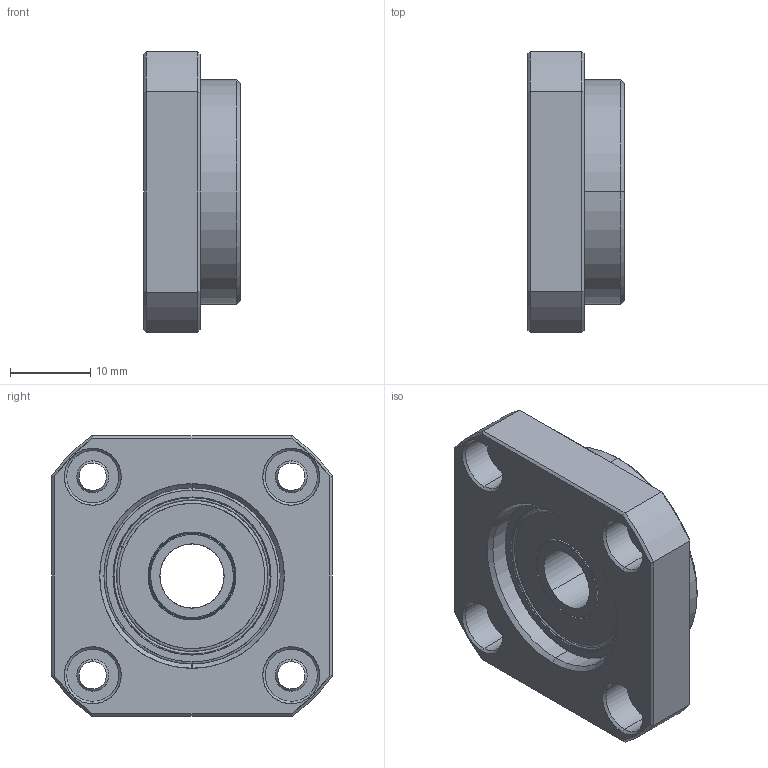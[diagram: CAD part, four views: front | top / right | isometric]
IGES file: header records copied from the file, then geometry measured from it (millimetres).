
Start section: SolidWorks IGES file using analytic representation for surfaces
Bounding box: 12 x 35 x 35 mm (x, y, z)
Surface area: 5132.7 mm2 (no closed solid volume)
Topology: 0 solids, 0 shells, 123 faces, 1640 edges, 1640 vertices
Faces by surface type: revolution 68, bspline 55
